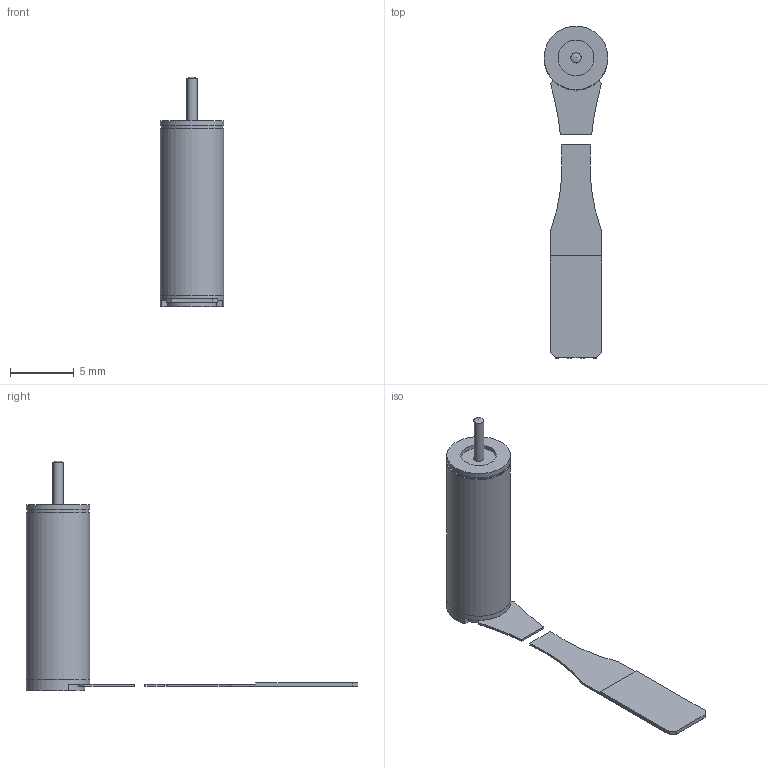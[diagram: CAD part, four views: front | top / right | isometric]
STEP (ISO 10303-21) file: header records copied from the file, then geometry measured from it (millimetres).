
FILE_DESCRIPTION(/* description */ (''),/* implementation_level */ '2;1');
FILE_NAME(/* name */ '0515G_B.stp',/* time_stamp */ '2017-07-14T08:05:06+02:00',/* author */ ('DR. FRITZ FAULHABER GmbH & Co. KG'),/* organization */ ('DR. FRITZ FAULHABER GmbH & Co. KG'),/* preprocessor_version */ 'ST-DEVELOPER v16',/* originating_system */ 'SIEMENS PLM Software NX 10.0',/* authorisation */ '');
FILE_SCHEMA (('AUTOMOTIVE_DESIGN { 1 0 10303 214 3 1 1 1 }'));
Length unit declared in the file: millimetre
Products named in the file (1): Alle_Motoren
Bounding box: 5 x 26 x 18 mm (x, y, z)
Volume: 300.8 mm3; surface area: 432.6 mm2
Topology: 2 solids, 2 shells, 72 faces, 182 edges, 121 vertices
Faces by surface type: plane 50, cylinder 14, extrusion 7, sphere 1
Full cylindrical faces by diameter (mm): 0.8 x1, 2.8 x1, 4.8 x1, 4.999 x1, 5 x3
Entity records: 2281 total; most frequent: CARTESIAN_POINT 597, ORIENTED_EDGE 340, DIRECTION 312, EDGE_CURVE 170, VERTEX_POINT 117, VECTOR 114, LINE 107, AXIS2_PLACEMENT_3D 99
